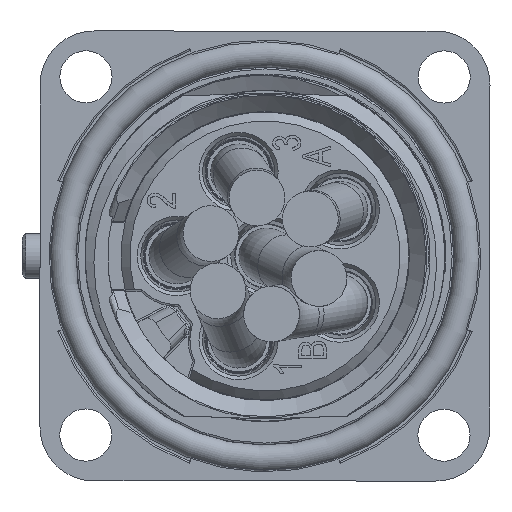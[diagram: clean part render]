
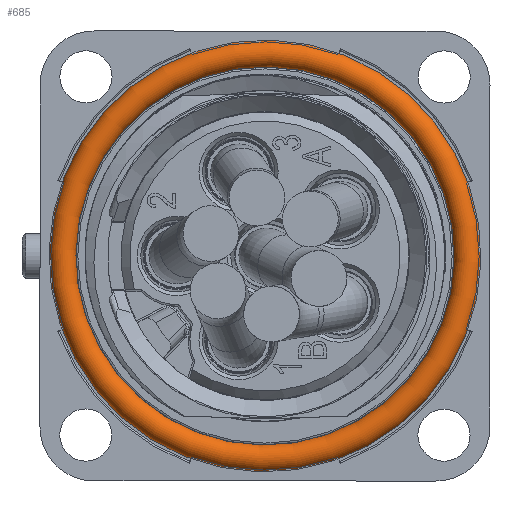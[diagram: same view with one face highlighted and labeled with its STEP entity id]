
A CAD part, left-side view. The second image highlights one B-rep face of the part: STEP entity #685.
In plain terms, the highlighted toroidal (fillet/blend) face has major radius 11.25 mm and minor radius 0.75 mm.
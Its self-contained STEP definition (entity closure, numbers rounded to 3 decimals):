
#685 = ADVANCED_FACE ( 'NONE', ( ), #14476, .T. ) ;
#14476 = TOROIDAL_SURFACE ( 'NONE', #68226, 11.25, 0.75 ) ;
#22490 = DIRECTION ( 'NONE',  ( 1., 0., 0. ) ) ;
#68226 = AXIS2_PLACEMENT_3D ( 'NONE', #137408, #22490, #115220 ) ;
#115220 = DIRECTION ( 'NONE',  ( 0., 0.315, 0.949 ) ) ;
#137408 = CARTESIAN_POINT ( 'NONE',  ( 476.138, 24.611, 2.106 ) ) ;
